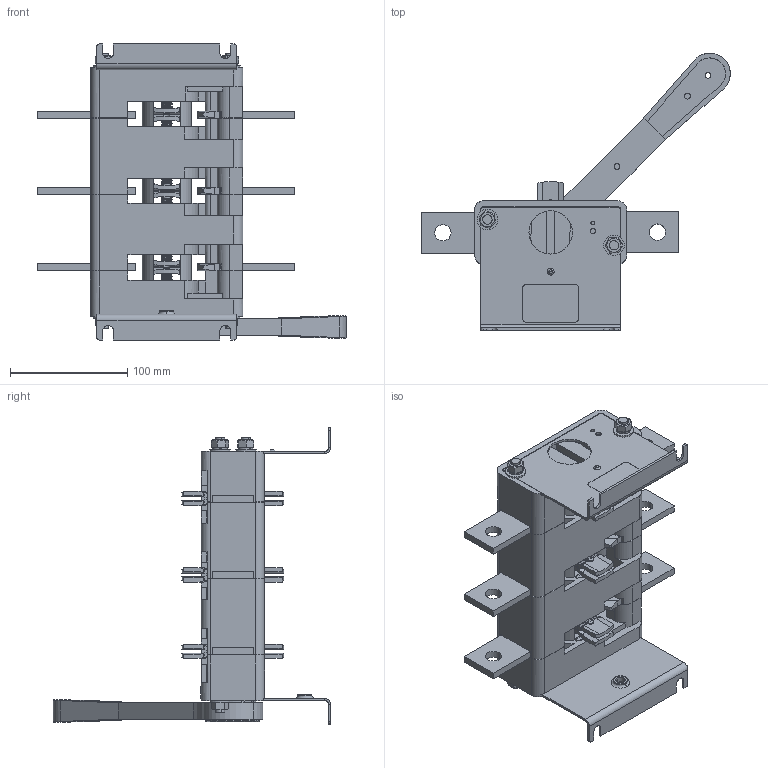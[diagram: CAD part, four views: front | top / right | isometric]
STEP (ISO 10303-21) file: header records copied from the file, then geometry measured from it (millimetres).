
FILE_DESCRIPTION (( 'STEP AP214' ), '1' );
FILE_NAME ('ﾂﾐ32-39ﾔ ﾃﾆﾈﾊ.642523.009-05 (ﾀ30220-630ﾀ).STEP', '2022-07-14T13:04:48', ( '' ), ( '' ), 'SwSTEP 2.0', 'SolidWorks 2018', '' );
FILE_SCHEMA (( 'AUTOMOTIVE_DESIGN' ));
Length unit declared in the file: millimetre
Products named in the file (28): ﾏ跖浯_ﾃﾆﾈﾊ.753553.012_-01 (癸ｮ爼); ﾘ琺矜 8 65ﾃ 016; 澡犟囹铕_闷仁.745484.007; 想囫蜩磬_闷仁.745355.030; 想囫蜩磬_闷仁.745355.016; ﾂ琿 ﾃﾆﾈﾊ.715274.004; ﾘ琺矜 8 ﾃﾆﾈﾊ.758491.024; Òàáëè÷êà äëÿ ñáîðêè ÷èñòàÿ; Êîíòàêò ïîäâèæíûé_ÃÆÈÊ.745355.014; Êîðïóñ ëåâûé ÃÆÈÊ.735384.050; Áîêîâèíà ïðàâàÿ_ÃÆÈÊ.735224.028; Øïèëüêà Ì8 ÃÆÈÊ.758292.006; Êîíòàêò ïîäâèæíûé ÃÆÈÊ.685179.146; 务黖闷仁.715411.020; 澡犟囹铕 忄豚 闷仁.745484.008.SLDDRW; Êîðïóñ ñðåäíèé ÃÆÈÊ.735384.049; Ãàéêà 2Ì8-6Í.5.016; ﾏ跖浯 ﾃﾆﾈﾊ.753553.013_-01 (癸ｮ爼); Áîêîâèíà ëåâàÿ ÃÆÈÊ.735224.029_-01(à¥§ì¡ ); ﾂﾐ32-39ﾔ ﾃﾆﾈﾊ.642523.009-05 (ﾀ30220-630ﾀ); 青汶篪赅 闷仁.735211.004; ﾂ鏆鮏 ﾃﾆﾈﾊ.745485.006; 暑痫篑 镳噔 闷仁.735384.048; 想囫蜩磬_闷仁.301714.004; 想囫蜩磬_闷仁.745355.028; Òàáëè÷êà äëÿ ñáîðêè ÷èñòàÿ áîëüøàÿ; Îáîëî÷êà 630À _¤«ï ç¥àâ¥¦ ; Ðóêîÿòêà ÃÆÈÊ.303658.016_¤«ï ç¥àâ¥¦ 
Assembly tree (51 placements, depth 4):
  ﾂﾐ32-39ﾔ ﾃﾆﾈﾊ.642523.009-05 (ﾀ30220-630ﾀ)
    Êîðïóñ ëåâûé ÃÆÈÊ.735384.050
    暑痫篑 镳噔 闷仁.735384.048
    Êîðïóñ ñðåäíèé ÃÆÈÊ.735384.049  x2
    ﾂ琿 ﾃﾆﾈﾊ.715274.004
    Êîíòàêò ïîäâèæíûé ÃÆÈÊ.685179.146  x3
      想囫蜩磬_闷仁.745355.016
      务黖闷仁.715411.020
      Êîíòàêò ïîäâèæíûé_ÃÆÈÊ.745355.014
      澡犟囹铕_闷仁.745484.007
      ﾏ跖浯_ﾃﾆﾈﾊ.753553.012_-01 (癸ｮ爼)
    Áîêîâèíà ëåâàÿ ÃÆÈÊ.735224.029_-01(à¥§ì¡ )
    Áîêîâèíà ïðàâàÿ_ÃÆÈÊ.735224.028
    澡犟囹铕 忄豚 闷仁.745484.008.SLDDRW  x2
    ﾏ跖浯 ﾃﾆﾈﾊ.753553.013_-01 (癸ｮ爼)  x2
    Øïèëüêà Ì8 ÃÆÈÊ.758292.006  x2
    Ãàéêà 2Ì8-6Í.5.016  x4
    ﾘ琺矜 8 65ﾃ 016  x2
    ﾘ琺矜 8 ﾃﾆﾈﾊ.758491.024  x4
    ﾂ鏆鮏 ﾃﾆﾈﾊ.745485.006  x6
    Ðóêîÿòêà ÃÆÈÊ.303658.016_¤«ï ç¥àâ¥¦ 
      Îáîëî÷êà 630À _¤«ï ç¥àâ¥¦ 
      想囫蜩磬_闷仁.301714.004
        想囫蜩磬_闷仁.745355.028
        想囫蜩磬_闷仁.745355.030
    青汶篪赅 闷仁.735211.004
    Òàáëè÷êà äëÿ ñáîðêè ÷èñòàÿ
    Òàáëè÷êà äëÿ ñáîðêè ÷èñòàÿ áîëüøàÿ
Bounding box: 263.24 x 236.74 x 252.6 mm (x, y, z)
Volume: 998121.8 mm3; surface area: 473169.1 mm2
Topology: 68 solids, 68 shells, 2368 faces, 5811 edges, 3645 vertices
Faces by surface type: plane 1388, cylinder 812, bspline 84, cone 72, torus 12
Entity records: 43260 total; most frequent: CARTESIAN_POINT 14979, DIRECTION 5799, ORIENTED_EDGE 5440, EDGE_CURVE 2720, AXIS2_PLACEMENT_3D 2050, VERTEX_POINT 1757, LINE 1699, VECTOR 1699
